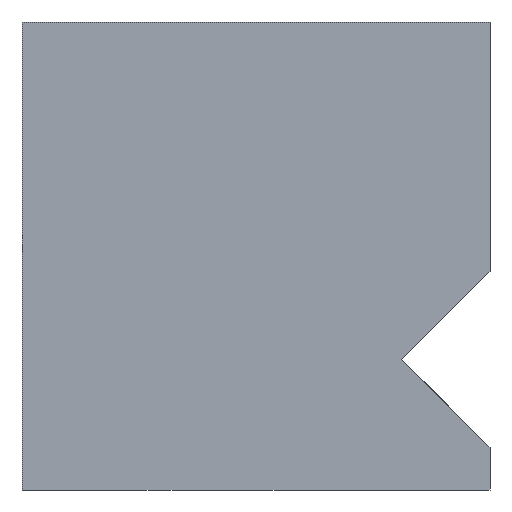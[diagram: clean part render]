
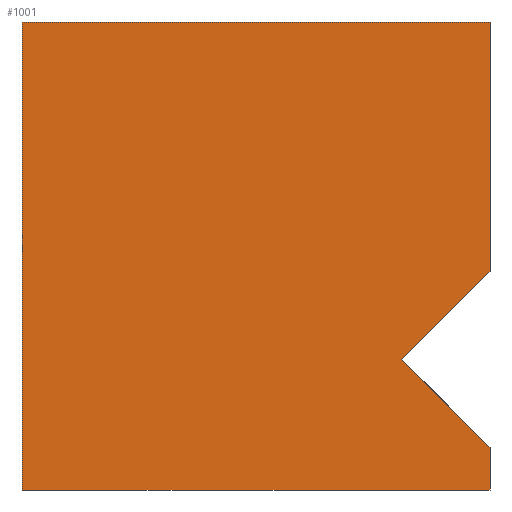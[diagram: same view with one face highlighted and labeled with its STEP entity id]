
A CAD part, left-side view. The second image highlights one B-rep face of the part: STEP entity #1001.
In plain terms, the highlighted planar face has unit normal (-1, 0, 0).
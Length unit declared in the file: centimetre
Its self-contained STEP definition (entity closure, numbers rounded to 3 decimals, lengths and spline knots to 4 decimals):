
#11 = VERTEX_POINT ( 'NONE', #927 ) ;
#44 = CARTESIAN_POINT ( 'NONE',  ( 0., 0., 1000. ) ) ;
#94 = ORIENTED_EDGE ( 'NONE', *, *, #446, .T. ) ;
#225 = EDGE_LOOP ( 'NONE', ( #712, #1108, #1092, #550, #676, #94, #646 ) ) ;
#251 = CARTESIAN_POINT ( 'NONE',  ( 0., 0., 1000. ) ) ;
#254 = LINE ( 'NONE', #656, #352 ) ;
#258 = DIRECTION ( 'NONE',  ( 0., -1., 0. ) ) ;
#282 = VECTOR ( 'NONE', #1055, 100. ) ;
#287 = CARTESIAN_POINT ( 'NONE',  ( 0., 1000., 0. ) ) ;
#312 = VERTEX_POINT ( 'NONE', #792 ) ;
#314 = DIRECTION ( 'NONE',  ( 0., 0., -1. ) ) ;
#331 = LINE ( 'NONE', #916, #645 ) ;
#333 = VERTEX_POINT ( 'NONE', #287 ) ;
#352 = VECTOR ( 'NONE', #765, 100. ) ;
#446 = EDGE_CURVE ( 'NONE', #312, #333, #331, .T. ) ;
#449 = DIRECTION ( 'NONE',  ( 0., 0., -1. ) ) ;
#476 = VERTEX_POINT ( 'NONE', #644 ) ;
#490 = VERTEX_POINT ( 'NONE', #770 ) ;
#497 = EDGE_CURVE ( 'NONE', #490, #476, #254, .T. ) ;
#550 = ORIENTED_EDGE ( 'NONE', *, *, #1050, .F. ) ;
#643 = VECTOR ( 'NONE', #1295, 100. ) ;
#644 = CARTESIAN_POINT ( 'NONE',  ( 0., 188.0883, 279.7435 ) ) ;
#645 = VECTOR ( 'NONE', #314, 100. ) ;
#646 = ORIENTED_EDGE ( 'NONE', *, *, #1090, .T. ) ;
#656 = CARTESIAN_POINT ( 'NONE',  ( 0., 188.0883, 279.7435 ) ) ;
#676 = ORIENTED_EDGE ( 'NONE', *, *, #1056, .F. ) ;
#684 = CARTESIAN_POINT ( 'NONE',  ( 0., 1000., 0. ) ) ;
#702 = AXIS2_PLACEMENT_3D ( 'NONE', #954, #1243, #449 ) ;
#704 = DIRECTION ( 'NONE',  ( 0., -0.707, -0.707 ) ) ;
#712 = ORIENTED_EDGE ( 'NONE', *, *, #1033, .F. ) ;
#726 = CARTESIAN_POINT ( 'NONE',  ( 0., 0., 91.6551 ) ) ;
#748 = FACE_OUTER_BOUND ( 'NONE', #225, .T. ) ;
#765 = DIRECTION ( 'NONE',  ( 0., 0.707, -0.707 ) ) ;
#770 = CARTESIAN_POINT ( 'NONE',  ( 0., 0., 467.8318 ) ) ;
#787 = VERTEX_POINT ( 'NONE', #940 ) ;
#792 = CARTESIAN_POINT ( 'NONE',  ( 0., 1000., 1000. ) ) ;
#829 = LINE ( 'NONE', #726, #960 ) ;
#851 = EDGE_CURVE ( 'NONE', #476, #787, #829, .T. ) ;
#862 = CARTESIAN_POINT ( 'NONE',  ( 0., 1000., 1000. ) ) ;
#867 = LINE ( 'NONE', #44, #1043 ) ;
#916 = CARTESIAN_POINT ( 'NONE',  ( 0., 1000., 1000. ) ) ;
#927 = CARTESIAN_POINT ( 'NONE',  ( 0., 0., 0. ) ) ;
#940 = CARTESIAN_POINT ( 'NONE',  ( 0., 0., 91.6551 ) ) ;
#954 = CARTESIAN_POINT ( 'NONE',  ( 0., 1000., 1000. ) ) ;
#960 = VECTOR ( 'NONE', #704, 100. ) ;
#987 = VERTEX_POINT ( 'NONE', #1144 ) ;
#1001 = ADVANCED_FACE ( 'NONE', ( #748 ), #1166, .F. ) ;
#1033 = EDGE_CURVE ( 'NONE', #787, #11, #867, .T. ) ;
#1043 = VECTOR ( 'NONE', #1049, 100. ) ;
#1049 = DIRECTION ( 'NONE',  ( 0., 0., -1. ) ) ;
#1050 = EDGE_CURVE ( 'NONE', #987, #490, #1157, .T. ) ;
#1055 = DIRECTION ( 'NONE',  ( 0., 0., -1. ) ) ;
#1056 = EDGE_CURVE ( 'NONE', #312, #987, #1162, .T. ) ;
#1075 = LINE ( 'NONE', #684, #643 ) ;
#1090 = EDGE_CURVE ( 'NONE', #333, #11, #1075, .T. ) ;
#1092 = ORIENTED_EDGE ( 'NONE', *, *, #497, .F. ) ;
#1108 = ORIENTED_EDGE ( 'NONE', *, *, #851, .F. ) ;
#1144 = CARTESIAN_POINT ( 'NONE',  ( 0., 0., 1000. ) ) ;
#1157 = LINE ( 'NONE', #251, #282 ) ;
#1162 = LINE ( 'NONE', #862, #1210 ) ;
#1166 = PLANE ( 'NONE',  #702 ) ;
#1210 = VECTOR ( 'NONE', #258, 100. ) ;
#1243 = DIRECTION ( 'NONE',  ( 1., 0., 0. ) ) ;
#1295 = DIRECTION ( 'NONE',  ( 0., -1., 0. ) ) ;
